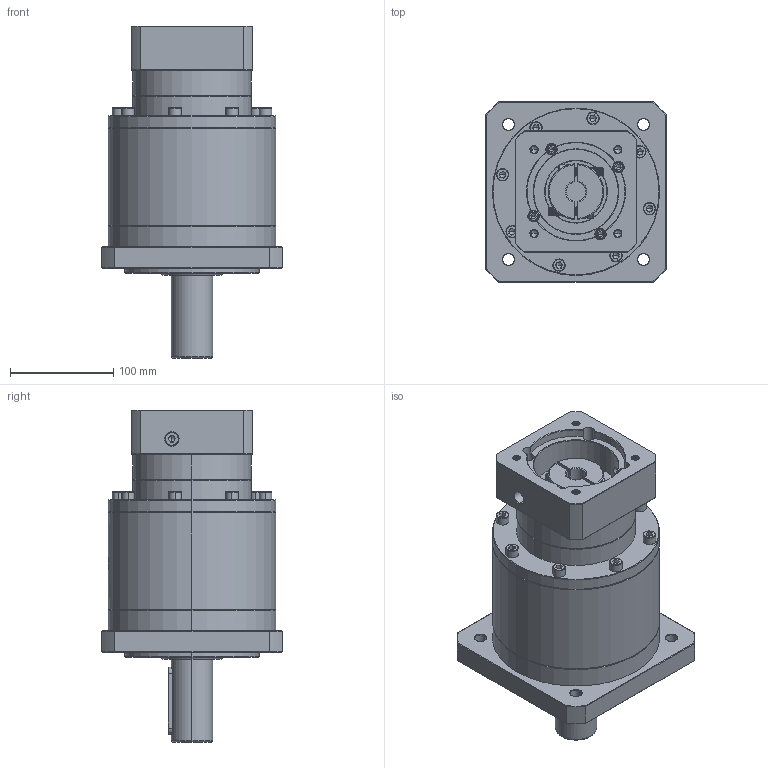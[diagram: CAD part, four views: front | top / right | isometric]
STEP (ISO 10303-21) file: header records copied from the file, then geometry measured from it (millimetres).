
FILE_DESCRIPTION (( 'STEP AP214' ), '1' );
FILE_NAME ('ZF160A-D40-L3-P2-19-95-115-M8.step', '2023-09-03T07:55:32', ( '' ), ( '' ), 'SwSTEP 2.0', 'SolidWorks 2016', '' );
FILE_SCHEMA (( 'AUTOMOTIVE_DESIGN' ));
Length unit declared in the file: millimetre
Products named in the file (1): ZF160A-D40-L3-P2-19-95-115-M8
Bounding box: 175 x 175 x 321.7 mm (x, y, z)
Volume: 4211822.6 mm3; surface area: 281111.8 mm2
Topology: 6 solids, 6 shells, 2449 faces, 6478 edges, 4152 vertices
Faces by surface type: plane 1119, cylinder 494, bspline 425, cone 373, torus 38
Entity records: 132690 total; most frequent: CARTESIAN_POINT 50371, ORIENTED_EDGE 12848, DIRECTION 9767, EDGE_CURVE 6424, VERTEX_POINT 4152, LINE 3391, VECTOR 3391, AXIS2_PLACEMENT_3D 3188
